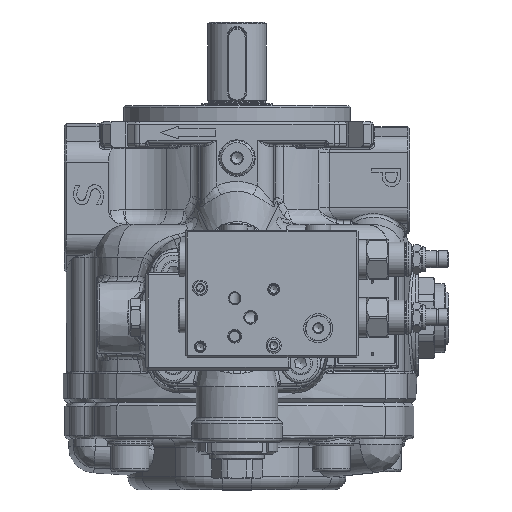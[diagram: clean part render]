
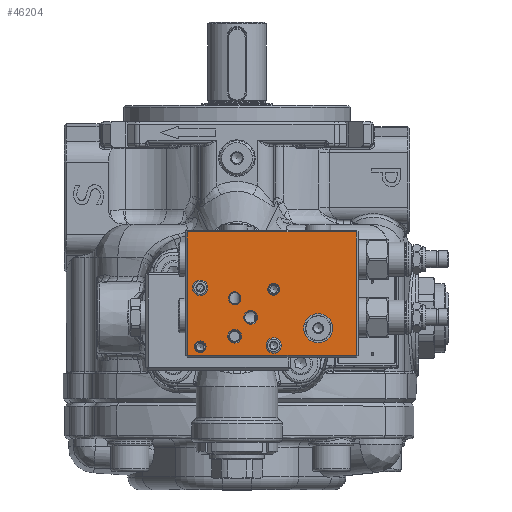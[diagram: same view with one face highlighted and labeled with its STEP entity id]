
A CAD part, top view. The second image highlights one B-rep face of the part: STEP entity #46204.
In plain terms, the highlighted planar face has unit normal (0, 0, 1).
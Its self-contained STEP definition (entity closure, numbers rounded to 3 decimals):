
#616=FACE_BOUND('',#8629,.T.);
#617=FACE_BOUND('',#8630,.T.);
#618=FACE_BOUND('',#8631,.T.);
#619=FACE_BOUND('',#8632,.T.);
#620=FACE_BOUND('',#8633,.T.);
#621=FACE_BOUND('',#8634,.T.);
#622=FACE_BOUND('',#8635,.T.);
#623=FACE_BOUND('',#8636,.T.);
#2036=PLANE('',#50620);
#3327=B_SPLINE_CURVE_WITH_KNOTS('',3,(#93318,#93319,#93320,#93321,#93322,
#93323,#93324,#93325,#93326,#93327,#93328,#93329,#93330,#93331,#93332,#93333,
#93334),.UNSPECIFIED.,.T.,.F.,(4,1,1,1,1,1,1,1,1,1,1,1,1,1,4),(-2.154,
-2.077,-2.,-1.923,-1.846,
-1.538,-1.231,-1.128,-0.923,
-0.615,-0.308,-0.231,-0.154,
-0.077,0.),.UNSPECIFIED.);
#5879=FACE_OUTER_BOUND('',#8628,.T.);
#8628=EDGE_LOOP('',(#39447,#39448,#39449,#39450));
#8629=EDGE_LOOP('',(#39451));
#8630=EDGE_LOOP('',(#39452));
#8631=EDGE_LOOP('',(#39453));
#8632=EDGE_LOOP('',(#39454));
#8633=EDGE_LOOP('',(#39455));
#8634=EDGE_LOOP('',(#39456,#39457));
#8635=EDGE_LOOP('',(#39458));
#8636=EDGE_LOOP('',(#39459));
#9009=CIRCLE('',#46660,4.25);
#10918=CIRCLE('',#50154,4.25);
#10952=CIRCLE('',#50214,8.);
#10953=CIRCLE('',#50215,8.);
#11042=CIRCLE('',#50582,3.25);
#11047=CIRCLE('',#50589,3.75);
#11048=CIRCLE('',#50591,3.25);
#11051=CIRCLE('',#50598,3.75);
#13912=LINE('',#93196,#16592);
#13917=LINE('',#93204,#16597);
#13922=LINE('',#93212,#16602);
#13925=LINE('',#93216,#16605);
#16592=VECTOR('',#61857,10.);
#16597=VECTOR('',#61866,10.);
#16602=VECTOR('',#61875,10.);
#16605=VECTOR('',#61880,10.);
#17033=VERTEX_POINT('',#64208);
#20020=VERTEX_POINT('',#91061);
#20075=VERTEX_POINT('',#91468);
#20076=VERTEX_POINT('',#91469);
#20547=VERTEX_POINT('',#93192);
#20548=VERTEX_POINT('',#93194);
#20549=VERTEX_POINT('',#93202);
#20550=VERTEX_POINT('',#93209);
#20552=VERTEX_POINT('',#93313);
#20553=VERTEX_POINT('',#93336);
#20558=VERTEX_POINT('',#93350);
#20559=VERTEX_POINT('',#93354);
#20564=VERTEX_POINT('',#93368);
#21312=EDGE_CURVE('',#17033,#17033,#9009,.T.);
#26119=EDGE_CURVE('',#20020,#20020,#10918,.T.);
#26194=EDGE_CURVE('',#20075,#20076,#10952,.T.);
#26195=EDGE_CURVE('',#20076,#20075,#10953,.T.);
#26904=EDGE_CURVE('',#20548,#20547,#13912,.T.);
#26909=EDGE_CURVE('',#20549,#20548,#13917,.T.);
#26914=EDGE_CURVE('',#20547,#20550,#13922,.T.);
#26917=EDGE_CURVE('',#20550,#20549,#13925,.T.);
#26921=EDGE_CURVE('',#20552,#20552,#3327,.T.);
#26922=EDGE_CURVE('',#20553,#20553,#11042,.T.);
#26929=EDGE_CURVE('',#20558,#20558,#11047,.T.);
#26931=EDGE_CURVE('',#20559,#20559,#11048,.T.);
#26938=EDGE_CURVE('',#20564,#20564,#11051,.T.);
#39447=ORIENTED_EDGE('',*,*,#26917,.F.);
#39448=ORIENTED_EDGE('',*,*,#26914,.F.);
#39449=ORIENTED_EDGE('',*,*,#26904,.F.);
#39450=ORIENTED_EDGE('',*,*,#26909,.F.);
#39451=ORIENTED_EDGE('',*,*,#26119,.F.);
#39452=ORIENTED_EDGE('',*,*,#21312,.F.);
#39453=ORIENTED_EDGE('',*,*,#26938,.F.);
#39454=ORIENTED_EDGE('',*,*,#26929,.F.);
#39455=ORIENTED_EDGE('',*,*,#26921,.F.);
#39456=ORIENTED_EDGE('',*,*,#26194,.T.);
#39457=ORIENTED_EDGE('',*,*,#26195,.T.);
#39458=ORIENTED_EDGE('',*,*,#26922,.F.);
#39459=ORIENTED_EDGE('',*,*,#26931,.F.);
#46204=ADVANCED_FACE('',(#5879,#616,#617,#618,#619,#620,#621,#622,#623),
#2036,.T.);
#46660=AXIS2_PLACEMENT_3D('',#64210,#51725,#51726);
#50154=AXIS2_PLACEMENT_3D('',#91063,#60411,#60412);
#50214=AXIS2_PLACEMENT_3D('',#91470,#60555,#60556);
#50215=AXIS2_PLACEMENT_3D('',#91471,#60557,#60558);
#50582=AXIS2_PLACEMENT_3D('',#93337,#61902,#61903);
#50589=AXIS2_PLACEMENT_3D('',#93351,#61918,#61919);
#50591=AXIS2_PLACEMENT_3D('',#93355,#61923,#61924);
#50598=AXIS2_PLACEMENT_3D('',#93369,#61939,#61940);
#50620=AXIS2_PLACEMENT_3D('',#93409,#61994,#61995);
#51725=DIRECTION('center_axis',(0.,0.,
1.));
#51726=DIRECTION('ref_axis',(1.,0.,0.));
#60411=DIRECTION('center_axis',(0.,0.,
1.));
#60412=DIRECTION('ref_axis',(1.,0.,0.));
#60555=DIRECTION('center_axis',(0.,0.,
-1.));
#60556=DIRECTION('ref_axis',(-1.,0.,0.));
#60557=DIRECTION('center_axis',(0.,0.,
-1.));
#60558=DIRECTION('ref_axis',(-1.,0.,0.));
#61857=DIRECTION('',(0.,1.,0.));
#61866=DIRECTION('',(-1.,0.,0.));
#61875=DIRECTION('',(1.,0.,0.));
#61880=DIRECTION('',(0.,-1.,0.));
#61902=DIRECTION('center_axis',(0.,0.,
1.));
#61903=DIRECTION('ref_axis',(1.,0.,0.));
#61918=DIRECTION('center_axis',(0.,0.,
1.));
#61919=DIRECTION('ref_axis',(1.,0.,0.));
#61923=DIRECTION('center_axis',(0.,0.,
1.));
#61924=DIRECTION('ref_axis',(1.,0.,0.));
#61939=DIRECTION('center_axis',(0.,0.,
1.));
#61940=DIRECTION('ref_axis',(1.,0.,0.));
#61994=DIRECTION('center_axis',(0.,0.,
1.));
#61995=DIRECTION('ref_axis',(-1.,0.,0.));
#64208=CARTESIAN_POINT('',(-28.042,-19.972,236.023));
#64210=CARTESIAN_POINT('Origin',(-23.792,-19.972,236.023));
#91061=CARTESIAN_POINT('',(12.458,-51.722,236.023));
#91063=CARTESIAN_POINT('Origin',(16.708,-51.722,236.023));
#91468=CARTESIAN_POINT('',(33.208,-42.222,236.023));
#91469=CARTESIAN_POINT('',(49.208,-42.222,236.023));
#91470=CARTESIAN_POINT('Origin',(41.208,-42.222,236.023));
#91471=CARTESIAN_POINT('Origin',(41.208,-42.222,236.023));
#93192=CARTESIAN_POINT('',(-30.792,10.778,236.023));
#93194=CARTESIAN_POINT('',(-30.792,-57.222,236.023));
#93196=CARTESIAN_POINT('',(-30.792,-5.722,236.023));
#93202=CARTESIAN_POINT('',(62.208,-57.222,236.023));
#93204=CARTESIAN_POINT('',(-8.042,-57.222,236.023));
#93209=CARTESIAN_POINT('',(62.208,10.778,236.023));
#93212=CARTESIAN_POINT('',(39.458,10.778,236.023));
#93216=CARTESIAN_POINT('',(62.208,-40.722,236.023));
#93313=CARTESIAN_POINT('',(-4.792,-22.216,236.023));
#93318=CARTESIAN_POINT('Ctrl Pts',(-4.792,-22.216,
236.023));
#93319=CARTESIAN_POINT('Ctrl Pts',(-4.963,-22.216,
236.023));
#93320=CARTESIAN_POINT('Ctrl Pts',(-5.334,-22.234,
236.023));
#93321=CARTESIAN_POINT('Ctrl Pts',(-6.168,-22.466,
236.023));
#93322=CARTESIAN_POINT('Ctrl Pts',(-6.932,-22.959,
236.023));
#93323=CARTESIAN_POINT('Ctrl Pts',(-8.03,-24.117,
236.023));
#93324=CARTESIAN_POINT('Ctrl Pts',(-8.547,-26.583,
236.023));
#93325=CARTESIAN_POINT('Ctrl Pts',(-6.979,-28.705,
236.023));
#93326=CARTESIAN_POINT('Ctrl Pts',(-4.985,-29.346,
236.023));
#93327=CARTESIAN_POINT('Ctrl Pts',(-2.844,-29.012,
236.023));
#93328=CARTESIAN_POINT('Ctrl Pts',(-1.027,-26.575,
236.023));
#93329=CARTESIAN_POINT('Ctrl Pts',(-1.554,-24.12,
236.023));
#93330=CARTESIAN_POINT('Ctrl Pts',(-2.651,-22.96,
236.023));
#93331=CARTESIAN_POINT('Ctrl Pts',(-3.415,-22.467,
236.023));
#93332=CARTESIAN_POINT('Ctrl Pts',(-4.249,-22.235,
236.023));
#93333=CARTESIAN_POINT('Ctrl Pts',(-4.621,-22.216,
236.023));
#93334=CARTESIAN_POINT('Ctrl Pts',(-4.792,-22.216,
236.023));
#93336=CARTESIAN_POINT('',(-27.042,-52.472,236.023));
#93337=CARTESIAN_POINT('Origin',(-23.792,-52.472,236.023));
#93350=CARTESIAN_POINT('',(0.258,-36.222,236.023));
#93351=CARTESIAN_POINT('Origin',(4.008,-36.222,236.023));
#93354=CARTESIAN_POINT('',(13.458,-20.722,236.023));
#93355=CARTESIAN_POINT('Origin',(16.708,-20.722,236.023));
#93368=CARTESIAN_POINT('',(-8.542,-46.622,236.023));
#93369=CARTESIAN_POINT('Origin',(-4.792,-46.622,236.023));
#93409=CARTESIAN_POINT('Origin',(15.708,-23.222,236.023));
